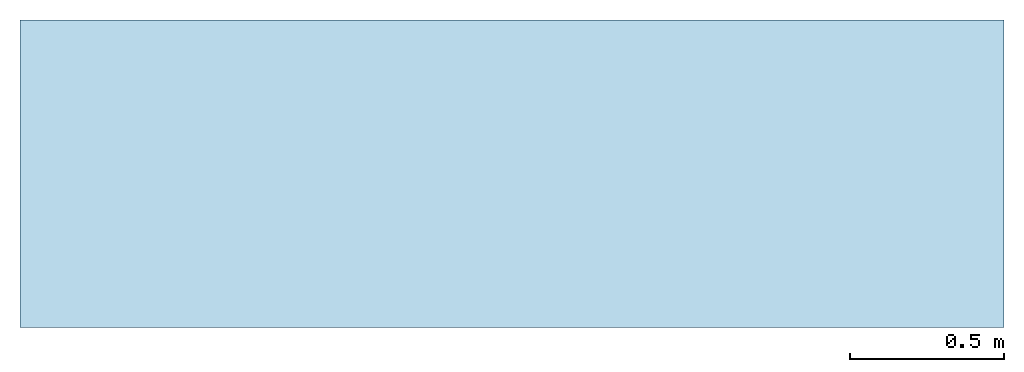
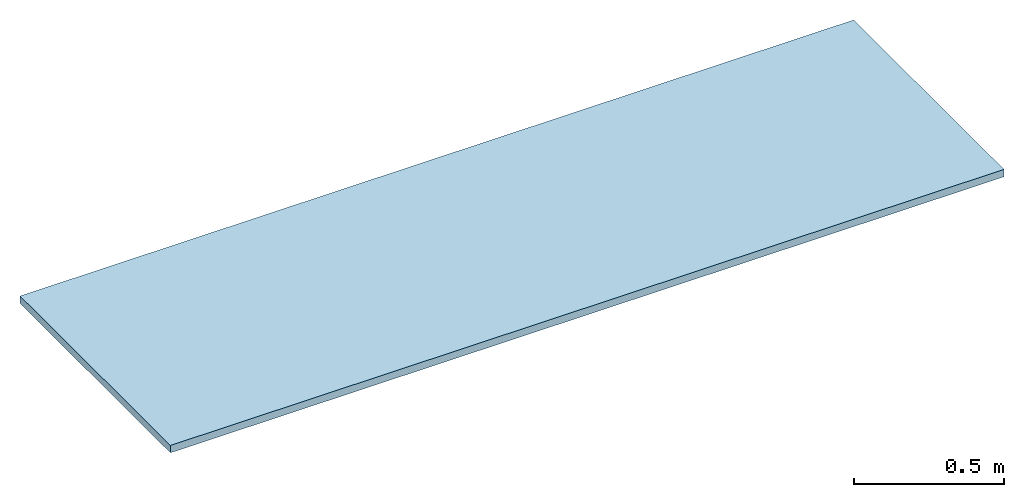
# One storey: 1 slab.
"""IFC2X3 building model written with IfcOpenShell, lengths in millimetres."""

from ifc_helpers import new_model, entity, si_unit, converted_unit, derived_unit, direction, frame, frame_2d, origin, place, context, subcontext, project, spatial, rectangle, extrude, material, layer, layer_set, layer_usage, element, save


model = new_model("IFC2X3")

# Units and contexts
model_context = context("Model", 3, precision=0.01, world=origin(), true_north=direction((6.12303176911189e-17, 1.0)))
context_of_model = context(None, 3, precision=0.01, world=origin(), true_north=direction((6.12303176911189e-17, 1.0)))
body_context = subcontext(model_context, "Body", "Model", "MODEL_VIEW")
ifc_project = project(units=[si_unit("LENGTHUNIT", "METRE", prefix="MILLI"), si_unit("AREAUNIT", "SQUARE_METRE"), si_unit("VOLUMEUNIT", "CUBIC_METRE"), converted_unit("PLANEANGLEUNIT", "DEGREE", entity("IfcRatioMeasure", 0.0174532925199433), si_unit("PLANEANGLEUNIT", "RADIAN"), dimensions=[0, 0, 0, 0, 0, 0, 0]), si_unit("MASSUNIT", "GRAM", prefix="KILO"), si_unit("TIMEUNIT", "SECOND"), si_unit("FREQUENCYUNIT", "HERTZ"), si_unit("THERMODYNAMICTEMPERATUREUNIT", "DEGREE_CELSIUS"), derived_unit("THERMALTRANSMITTANCEUNIT", [(si_unit("MASSUNIT", "GRAM", prefix="KILO"), 1), (si_unit("THERMODYNAMICTEMPERATUREUNIT", "KELVIN"), -1), (si_unit("TIMEUNIT", "SECOND"), -3)]), derived_unit("VOLUMETRICFLOWRATEUNIT", [(si_unit("LENGTHUNIT", "METRE"), 3), (si_unit("TIMEUNIT", "SECOND"), -1)]), si_unit("ELECTRICCURRENTUNIT", "AMPERE"), si_unit("ELECTRICVOLTAGEUNIT", "VOLT"), si_unit("POWERUNIT", "WATT"), si_unit("FORCEUNIT", "NEWTON", prefix="KILO"), si_unit("ILLUMINANCEUNIT", "LUX"), si_unit("LUMINOUSFLUXUNIT", "LUMEN"), si_unit("LUMINOUSINTENSITYUNIT", "CANDELA"), si_unit("PRESSUREUNIT", "PASCAL")], contexts=[model_context, context_of_model])

# Site, building, storey
site_placement = place(None, origin())
site = spatial("IfcSite", under=ifc_project, at=site_placement, Name="Default", CompositionType="ELEMENT")
building_placement = place(site_placement, origin())
building = spatial("IfcBuilding", under=site, at=building_placement, CompositionType="ELEMENT")
storey_placement = place(building_placement, origin())
storey = spatial("IfcBuildingStorey", under=building, at=storey_placement, Name="Уровень 1", CompositionType="ELEMENT", Elevation=0.0)

# Slab
ifc_material = material(Name="ROLS_ISOMARKET_Мат ENERGOFLOOR TACKER 30/1-3,2 DES-sg")
ifc_layer = layer(ifc_material, 30.0)
ifc_layer_set = layer_set([ifc_layer], Name="Перекрытие:ROLS_ISOMARKET_Мат ENERGOFLOOR TACKER 30/1-3,2 DES-sg")
ifc_layer_usage = layer_usage(ifc_layer_set, "AXIS3", "POSITIVE", 0.0)
slab_placement = place(storey_placement, origin())
element("IfcSlab", 1, at=slab_placement, inside=storey, material=ifc_layer_usage, Name="Перекрытие:ROLS_ISOMARKET_Мат ENERGOFLOOR TACKER 30/1-3,2 DES-sg", ObjectType="Перекрытие:ROLS_ISOMARKET_Мат ENERGOFLOOR TACKER 30/1-3,2 DES-sg", PredefinedType="FLOOR", context=body_context, shape_type="SweptSolid", body=[
    extrude(rectangle(XDim=1000.0, YDim=3200.0, at=frame_2d((0.0, 1.02318153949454e-12), x_axis=(1.0, 0.0))), frame((-15515.4270794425, 9602.16062637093, 0.0), z_axis=(0.0, 0.0, -1.0), x_axis=(0.0, 1.0, 0.0)), (0.0, 0.0, 1.0), 30.0),
])

save(model, "model.ifc")
